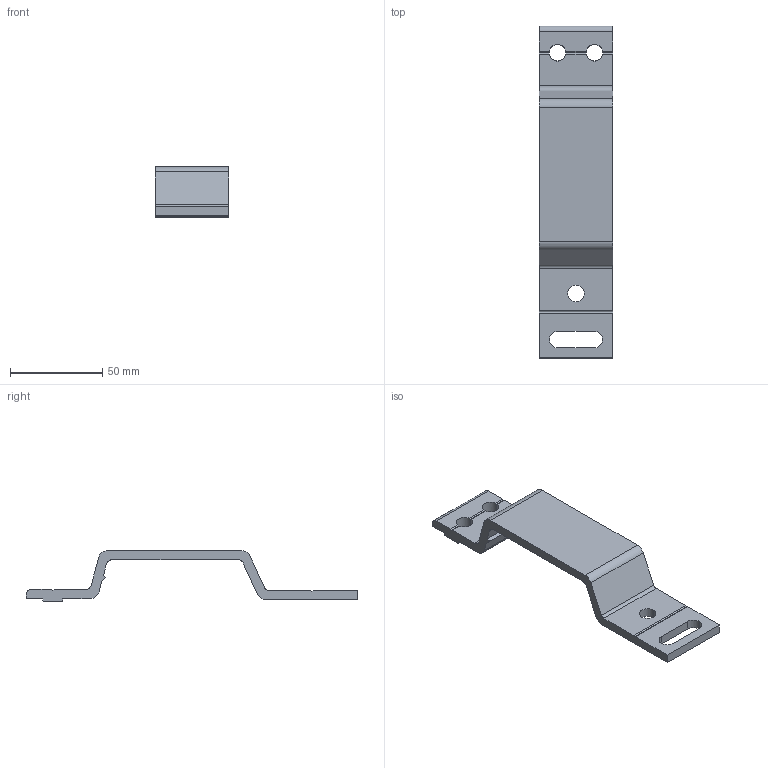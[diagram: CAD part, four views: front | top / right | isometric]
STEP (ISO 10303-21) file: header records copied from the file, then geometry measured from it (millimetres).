
FILE_DESCRIPTION (( 'STEP AP214' ), '1' );
FILE_NAME ('FAVBS 40S.step', '2017-04-05T08:00:00', ( '' ), ( '' ), 'SwSTEP 2.0', 'SolidWorks 2015', '' );
FILE_SCHEMA (( 'AUTOMOTIVE_DESIGN' ));
Length unit declared in the file: millimetre
Products named in the file (1): FAVBS 40S
Bounding box: 40 x 180 x 27.5 mm (x, y, z)
Volume: 39998.2 mm3; surface area: 19177.7 mm2
Topology: 1 solids, 1 shells, 53 faces, 155 edges, 102 vertices
Faces by surface type: plane 33, cylinder 20
Entity records: 1807 total; most frequent: CARTESIAN_POINT 335, ORIENTED_EDGE 310, DIRECTION 295, EDGE_CURVE 155, VECTOR 107, LINE 107, VERTEX_POINT 102, AXIS2_PLACEMENT_3D 94
